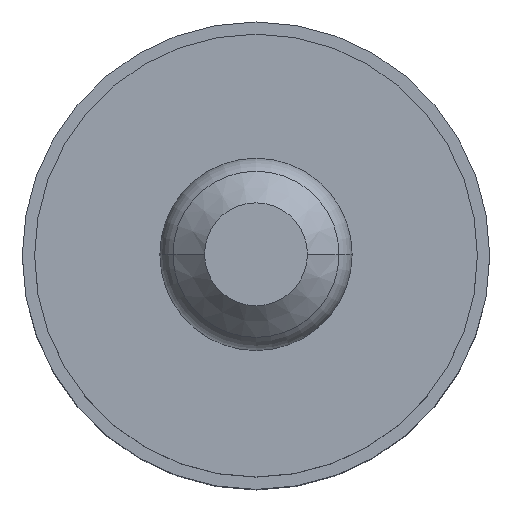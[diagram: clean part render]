
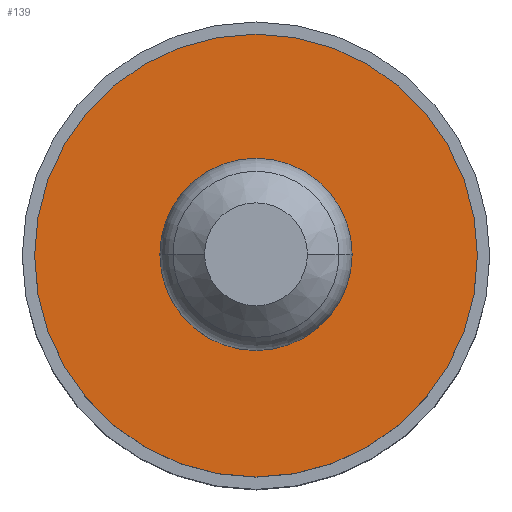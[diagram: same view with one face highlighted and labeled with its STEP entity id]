
A CAD part, top view. The second image highlights one B-rep face of the part: STEP entity #139.
In plain terms, the highlighted planar face has unit normal (0, 0, 1).
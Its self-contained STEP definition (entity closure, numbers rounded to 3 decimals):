
#13 = AXIS2_PLACEMENT_3D ( 'NONE', #74, #399, #116 ) ;
#25 = DIRECTION ( 'NONE',  ( 1., 0., 0. ) ) ;
#74 = CARTESIAN_POINT ( 'NONE',  ( 0., 0., 11. ) ) ;
#105 = EDGE_LOOP ( 'NONE', ( #354, #283 ) ) ;
#113 = VERTEX_POINT ( 'NONE', #307 ) ;
#116 = DIRECTION ( 'NONE',  ( 1., 0., 0. ) ) ;
#117 = DIRECTION ( 'NONE',  ( 0., 0., 1. ) ) ;
#120 = CIRCLE ( 'NONE', #409, 4.95 ) ;
#139 = ADVANCED_FACE ( 'NONE', ( #298, #388 ), #269, .T. ) ;
#163 = EDGE_LOOP ( 'NONE', ( #238, #457 ) ) ;
#202 = CARTESIAN_POINT ( 'NONE',  ( -1.363, 0., 11. ) ) ;
#205 = CIRCLE ( 'NONE', #349, 1.363 ) ;
#208 = DIRECTION ( 'NONE',  ( 0., 0., 1. ) ) ;
#228 = DIRECTION ( 'NONE',  ( 0., 0., 1. ) ) ;
#238 = ORIENTED_EDGE ( 'NONE', *, *, #466, .F. ) ;
#250 = VERTEX_POINT ( 'NONE', #378 ) ;
#269 = PLANE ( 'NONE',  #287 ) ;
#283 = ORIENTED_EDGE ( 'NONE', *, *, #465, .T. ) ;
#287 = AXIS2_PLACEMENT_3D ( 'NONE', #509, #228, #309 ) ;
#288 = DIRECTION ( 'NONE',  ( 0., 0., 1. ) ) ;
#296 = CIRCLE ( 'NONE', #452, 1.363 ) ;
#298 = FACE_BOUND ( 'NONE', #163, .T. ) ;
#301 = CARTESIAN_POINT ( 'NONE',  ( 4.95, 0., 11. ) ) ;
#307 = CARTESIAN_POINT ( 'NONE',  ( 1.363, 0., 11. ) ) ;
#309 = DIRECTION ( 'NONE',  ( 1., 0., 0. ) ) ;
#349 = AXIS2_PLACEMENT_3D ( 'NONE', #402, #117, #445 ) ;
#354 = ORIENTED_EDGE ( 'NONE', *, *, #404, .T. ) ;
#378 = CARTESIAN_POINT ( 'NONE',  ( -4.95, 0., 11. ) ) ;
#388 = FACE_OUTER_BOUND ( 'NONE', #105, .T. ) ;
#399 = DIRECTION ( 'NONE',  ( 0., 0., 1. ) ) ;
#402 = CARTESIAN_POINT ( 'NONE',  ( 0., 0., 11. ) ) ;
#404 = EDGE_CURVE ( 'NONE', #576, #250, #120, .T. ) ;
#409 = AXIS2_PLACEMENT_3D ( 'NONE', #569, #288, #25 ) ;
#420 = VERTEX_POINT ( 'NONE', #202 ) ;
#445 = DIRECTION ( 'NONE',  ( 1., 0., 0. ) ) ;
#452 = AXIS2_PLACEMENT_3D ( 'NONE', #496, #208, #530 ) ;
#457 = ORIENTED_EDGE ( 'NONE', *, *, #471, .F. ) ;
#465 = EDGE_CURVE ( 'NONE', #250, #576, #525, .T. ) ;
#466 = EDGE_CURVE ( 'NONE', #420, #113, #296, .T. ) ;
#471 = EDGE_CURVE ( 'NONE', #113, #420, #205, .T. ) ;
#496 = CARTESIAN_POINT ( 'NONE',  ( 0., 0., 11. ) ) ;
#509 = CARTESIAN_POINT ( 'NONE',  ( 0., 0., 11. ) ) ;
#525 = CIRCLE ( 'NONE', #13, 4.95 ) ;
#530 = DIRECTION ( 'NONE',  ( 1., 0., 0. ) ) ;
#569 = CARTESIAN_POINT ( 'NONE',  ( 0., 0., 11. ) ) ;
#576 = VERTEX_POINT ( 'NONE', #301 ) ;
